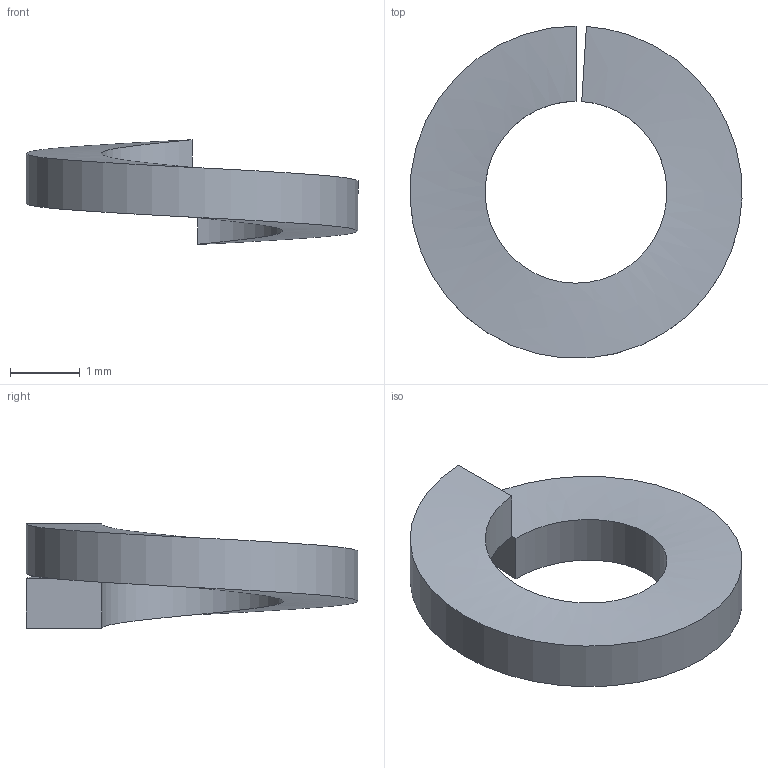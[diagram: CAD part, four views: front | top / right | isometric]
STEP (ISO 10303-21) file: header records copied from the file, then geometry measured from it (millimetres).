
FILE_DESCRIPTION (( 'STEP AP203' ), '1' );
FILE_NAME ('LW3Z.STEP', '2025-09-08T18:55:36', ( '' ), ( '' ), 'SwSTEP 2.0', 'SolidWorks 2020', '' );
FILE_SCHEMA (( 'CONFIG_CONTROL_DESIGN' ));
Length unit declared in the file: inch
Products named in the file (1): LW3Z
Bounding box: 4.75 x 4.74 x 1.49 mm (x, y, z)
Volume: 8.7 mm3; surface area: 42.4 mm2
Topology: 1 solids, 1 shells, 6 faces, 12 edges, 8 vertices
Faces by surface type: bspline 4, plane 2
Entity records: 409 total; most frequent: CARTESIAN_POINT 245, ORIENTED_EDGE 24, EDGE_CURVE 12, B_SPLINE_CURVE_WITH_KNOTS 8, VERTEX_POINT 8, PERSON_AND_ORGANIZATION 8, EDGE_LOOP 6, DIRECTION 6
